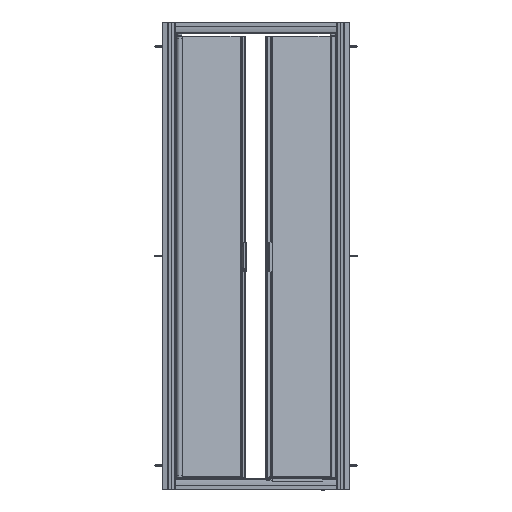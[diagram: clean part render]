
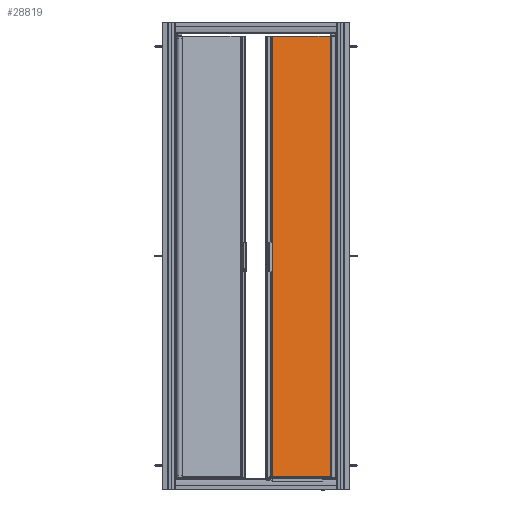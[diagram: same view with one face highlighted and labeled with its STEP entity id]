
A CAD part, left-side view. The second image highlights one B-rep face of the part: STEP entity #28819.
In plain terms, the highlighted planar face has unit normal (-0.866, -0.5, 0) as drawn and (0, 0, 1) by its records, which use the part's own axes.
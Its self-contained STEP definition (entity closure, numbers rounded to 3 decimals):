
#2534=PLANE('',#31346);
#4050=FACE_OUTER_BOUND('',#5836,.T.);
#5836=EDGE_LOOP('',(#25867,#25868,#25869,#25870));
#8108=LINE('',#50983,#10488);
#8111=LINE('',#50989,#10491);
#8114=LINE('',#50995,#10494);
#8117=LINE('',#50999,#10497);
#10488=VECTOR('',#38423,1791.);
#10491=VECTOR('',#38428,290.);
#10494=VECTOR('',#38433,1791.);
#10497=VECTOR('',#38438,290.);
#14300=VERTEX_POINT('',#50980);
#14301=VERTEX_POINT('',#50982);
#14303=VERTEX_POINT('',#50988);
#14305=VERTEX_POINT('',#50994);
#18218=EDGE_CURVE('',#14301,#14300,#8108,.T.);
#18221=EDGE_CURVE('',#14303,#14301,#8111,.T.);
#18224=EDGE_CURVE('',#14305,#14303,#8114,.T.);
#18227=EDGE_CURVE('',#14300,#14305,#8117,.T.);
#25867=ORIENTED_EDGE('',*,*,#18227,.T.);
#25868=ORIENTED_EDGE('',*,*,#18224,.T.);
#25869=ORIENTED_EDGE('',*,*,#18221,.T.);
#25870=ORIENTED_EDGE('',*,*,#18218,.T.);
#28819=ADVANCED_FACE('',(#4050),#2534,.T.);
#31346=AXIS2_PLACEMENT_3D('',#51000,#38439,#38440);
#38423=DIRECTION('',(0.,-1.,0.));
#38428=DIRECTION('',(-1.,0.,0.));
#38433=DIRECTION('',(0.,1.,0.));
#38438=DIRECTION('',(1.,0.,0.));
#38439=DIRECTION('center_axis',(0.,0.,1.));
#38440=DIRECTION('ref_axis',(1.,0.,0.));
#50980=CARTESIAN_POINT('',(410.,-2.,4.));
#50982=CARTESIAN_POINT('',(410.,1789.,4.));
#50983=CARTESIAN_POINT('',(410.,1789.,4.));
#50988=CARTESIAN_POINT('',(700.,1789.,4.));
#50989=CARTESIAN_POINT('',(700.,1789.,4.));
#50994=CARTESIAN_POINT('',(700.,-2.,4.));
#50995=CARTESIAN_POINT('',(700.,-2.,4.));
#50999=CARTESIAN_POINT('',(410.,-2.,4.));
#51000=CARTESIAN_POINT('Origin',(555.,893.5,4.));
